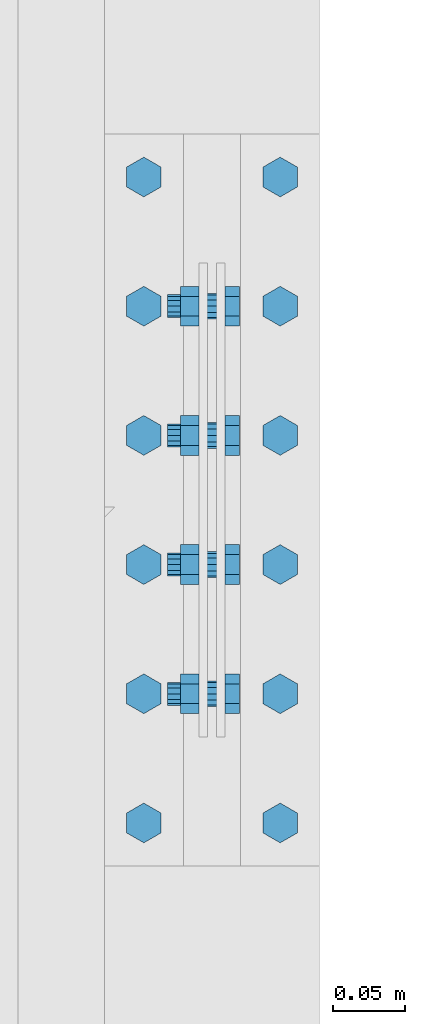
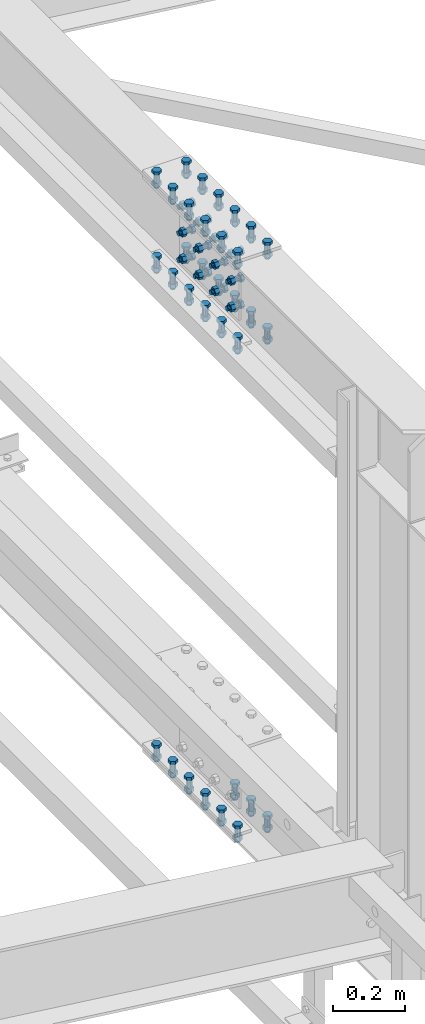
# One storey, part 148 of 3134: 13 mechanical fasteners, 2 elements without a shape of their own.
"""IFC2X3 building model written with IfcOpenShell, lengths in millimetres."""

from ifc_helpers import new_model, si_unit, frame, origin_with_axes, place, context, subcontext, project, spatial, faceted_brep, source, transform, mapped, material, type_object, element, aggregate, save


model = new_model("IFC2X3")

# Units and contexts
model_context = context("Model", 3, precision=1e-05, world=origin_with_axes())
body_context = subcontext(model_context, "Body", "Model", "MODEL_VIEW")
ifc_project = project(units=[si_unit("LENGTHUNIT", "METRE", prefix="MILLI"), si_unit("AREAUNIT", "SQUARE_METRE"), si_unit("VOLUMEUNIT", "CUBIC_METRE"), si_unit("MASSUNIT", "GRAM", prefix="KILO"), si_unit("TIMEUNIT", "SECOND"), si_unit("PLANEANGLEUNIT", "RADIAN"), si_unit("SOLIDANGLEUNIT", "STERADIAN"), si_unit("THERMODYNAMICTEMPERATUREUNIT", "DEGREE_CELSIUS"), si_unit("LUMINOUSINTENSITYUNIT", "LUMEN")], contexts=[model_context])

# Site, building, storey
site_placement = place(None, origin_with_axes())
site = spatial("IfcSite", under=ifc_project, at=site_placement, CompositionType="ELEMENT")
building_placement = place(site_placement, origin_with_axes())
building = spatial("IfcBuilding", under=site, at=building_placement, Name="Undefined", CompositionType="ELEMENT")
storey_placement = place(building_placement, origin_with_axes())
storey = spatial("IfcBuildingStorey", under=building, at=storey_placement, Name="Undefined", CompositionType="ELEMENT", Elevation=0.0)

# Assembly, mechanical fastener
assembly_1_placement = place(storey_placement, origin_with_axes())
assembly_1 = element("IfcElementAssembly", 1, at=assembly_1_placement, inside=storey, Name="300", AssemblyPlace="NOTDEFINED", PredefinedType="RIGID_FRAME")
ifc_material = material(Name="8.8")
mechanical_fastener_type = type_object("IfcMechanicalFastenerType", Name="Bolt assembly")
shared_shape_1 = source(origin_with_axes(), body_context, "Body", "Brep", [
    faceted_brep([(13.856406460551, -19.0499999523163, 0.0), (6.92820323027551, -19.0499999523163, 12.0), (-6.92820323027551, -19.0499999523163, 12.0), (-13.856406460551, -19.0499999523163, 1.69692038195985e-15), (-6.92820323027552, -19.0499999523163, -12.0), (6.9282032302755, -19.0499999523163, -12.0), (6.9282032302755, -9.04999995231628, -12.0), (-6.92820323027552, -9.04999995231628, -12.0), (-13.856406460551, -9.04999995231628, 1.69692038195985e-15), (-6.92820323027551, -9.04999995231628, 12.0), (6.92820323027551, -9.04999995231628, 12.0), (13.856406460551, -9.04999995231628, 0.0), (8.0, -9.04999995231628, 0.0), (6.92820323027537, -9.04999995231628, 4.00000000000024), (3.99999999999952, -9.04999995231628, 6.92820323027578), (-8.29068785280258e-13, -9.04999995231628, 8.0), (-4.00000000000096, -9.04999995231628, 6.92820323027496), (-6.9282032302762, -9.04999995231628, 3.99999999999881), (-8.0, -9.04999995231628, -1.65813757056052e-12), (-6.92820323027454, -9.04999995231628, -4.00000000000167), (-3.99999999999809, -9.04999995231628, -6.92820323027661), (2.47832457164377e-12, -9.04999995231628, -8.0), (4.00000000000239, -9.04999995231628, -6.92820323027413), (6.92820323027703, -9.04999995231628, -3.99999999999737), (6.92820323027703, 30.9500000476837, -3.99999999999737), (4.00000000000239, 30.9500000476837, -6.92820323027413), (2.47832457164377e-12, 30.9500000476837, -8.0), (-3.99999999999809, 30.9500000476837, -6.92820323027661), (-6.92820323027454, 30.9500000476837, -4.00000000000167), (-8.0, 30.9500000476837, -1.65813757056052e-12), (-6.9282032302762, 30.9500000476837, 3.99999999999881), (-4.00000000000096, 30.9500000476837, 6.92820323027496), (-8.29068785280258e-13, 30.9500000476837, 8.0), (3.99999999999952, 30.9500000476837, 6.92820323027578), (6.92820323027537, 30.9500000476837, 4.00000000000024), (8.0, 30.9500000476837, 0.0), (13.856406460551, 9.04999995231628, 0.0), (6.92820323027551, 9.04999995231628, 12.0), (-6.92820323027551, 9.04999995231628, 12.0), (-13.856406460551, 9.04999995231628, 1.69692038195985e-15), (-6.92820323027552, 9.04999995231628, -12.0), (6.9282032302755, 9.04999995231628, -12.0), (6.9282032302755, 22.0499999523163, -12.0), (-6.92820323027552, 22.0499999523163, -12.0), (-13.856406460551, 22.0499999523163, 1.69692038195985e-15), (-6.92820323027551, 22.0499999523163, 12.0), (6.92820323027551, 22.0499999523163, 12.0), (13.856406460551, 22.0499999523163, 0.0)], [[[0, 1, 2, 3, 4, 5]], [[6, 7, 8, 9, 10, 11]], [[0, 11, 10, 1]], [[1, 10, 9, 2]], [[2, 9, 8, 3]], [[3, 8, 7, 4]], [[4, 7, 6, 5]], [[5, 6, 11, 0]], [[12, 13, 14, 15, 16, 17, 18, 19, 20, 21, 22, 23]], [[24, 25, 26, 27, 28, 29, 30, 31, 32, 33, 34, 35]], [[12, 35, 34, 13]], [[13, 34, 33, 14]], [[14, 33, 32, 15]], [[15, 32, 31, 16]], [[16, 31, 30, 17]], [[17, 30, 29, 18]], [[18, 29, 28, 19]], [[19, 28, 27, 20]], [[20, 27, 26, 21]], [[21, 26, 25, 22]], [[22, 25, 24, 23]], [[23, 24, 35, 12]], [[36, 37, 38, 39, 40, 41]], [[42, 43, 44, 45, 46, 47]], [[36, 47, 46, 37]], [[37, 46, 45, 38]], [[38, 45, 44, 39]], [[39, 44, 43, 40]], [[40, 43, 42, 41]], [[41, 42, 47, 36]]]),
    faceted_brep([(9.0, -8.94999995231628, 0.0), (7.79422863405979, -8.94999995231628, 4.50000000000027), (4.49999999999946, -8.94999995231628, 7.79422863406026), (-9.3270238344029e-13, -8.94999995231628, 9.0), (-4.50000000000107, -8.94999995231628, 7.79422863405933), (-7.79422863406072, -8.94999995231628, 4.49999999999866), (-9.0, -8.94999995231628, -1.86540476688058e-12), (-7.79422863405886, -8.94999995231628, -4.50000000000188), (-4.49999999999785, -8.94999995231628, -7.79422863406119), (2.78811514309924e-12, -8.94999995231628, -9.0), (4.50000000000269, -8.94999995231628, -7.7942286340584), (7.79422863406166, -8.94999995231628, -4.49999999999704), (7.79422863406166, -2.94999995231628, -4.49999999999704), (4.50000000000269, -2.94999995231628, -7.7942286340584), (2.78811514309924e-12, -2.94999995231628, -9.0), (-4.49999999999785, -2.94999995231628, -7.79422863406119), (-7.79422863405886, -2.94999995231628, -4.50000000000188), (-9.0, -2.94999995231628, -1.86540476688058e-12), (-7.79422863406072, -2.94999995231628, 4.49999999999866), (-4.50000000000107, -2.94999995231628, 7.79422863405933), (-9.3270238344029e-13, -2.94999995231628, 9.0), (4.49999999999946, -2.94999995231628, 7.79422863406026), (7.79422863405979, -2.94999995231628, 4.50000000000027), (9.0, -2.94999995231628, 0.0), (9.0, -3.04999995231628, 0.0), (7.79422863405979, -3.04999995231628, 4.50000000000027), (4.49999999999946, -3.04999995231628, 7.79422863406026), (-9.3270238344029e-13, -3.04999995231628, 9.0), (-4.50000000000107, -3.04999995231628, 7.79422863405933), (-7.79422863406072, -3.04999995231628, 4.49999999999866), (-9.0, -3.04999995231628, -1.86540476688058e-12), (-7.79422863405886, -3.04999995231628, -4.50000000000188), (-4.49999999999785, -3.04999995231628, -7.79422863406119), (2.78811514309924e-12, -3.04999995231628, -9.0), (4.50000000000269, -3.04999995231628, -7.7942286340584), (7.79422863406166, -3.04999995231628, -4.49999999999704), (7.79422863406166, 3.04999995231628, -4.49999999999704), (4.50000000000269, 3.04999995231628, -7.7942286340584), (2.78811514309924e-12, 3.04999995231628, -9.0), (-4.49999999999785, 3.04999995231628, -7.79422863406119), (-7.79422863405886, 3.04999995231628, -4.50000000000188), (-9.0, 3.04999995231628, -1.86540476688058e-12), (-7.79422863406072, 3.04999995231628, 4.49999999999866), (-4.50000000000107, 3.04999995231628, 7.79422863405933), (-9.3270238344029e-13, 3.04999995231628, 9.0), (4.49999999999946, 3.04999995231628, 7.79422863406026), (7.79422863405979, 3.04999995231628, 4.50000000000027), (9.0, 3.04999995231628, 0.0), (9.0, 2.95000000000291, 0.0), (7.79422863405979, 2.95000000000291, 4.50000000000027), (4.49999999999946, 2.95000000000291, 7.79422863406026), (-9.3270238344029e-13, 2.95000000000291, 9.0), (-4.50000000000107, 2.95000000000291, 7.79422863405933), (-7.79422863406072, 2.95000000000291, 4.49999999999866), (-9.0, 2.95000000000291, -1.86540476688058e-12), (-7.79422863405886, 2.95000000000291, -4.50000000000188), (-4.49999999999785, 2.95000000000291, -7.79422863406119), (2.78811514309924e-12, 2.95000000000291, -9.0), (4.50000000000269, 2.95000000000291, -7.7942286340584), (7.79422863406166, 2.95000000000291, -4.49999999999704), (7.79422863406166, 9.04999995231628, -4.49999999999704), (4.50000000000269, 9.04999995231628, -7.7942286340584), (2.78811514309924e-12, 9.04999995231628, -9.0), (-4.49999999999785, 9.04999995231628, -7.79422863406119), (-7.79422863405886, 9.04999995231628, -4.50000000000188), (-9.0, 9.04999995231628, -1.86540476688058e-12), (-7.79422863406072, 9.04999995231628, 4.49999999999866), (-4.50000000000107, 9.04999995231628, 7.79422863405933), (-9.3270238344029e-13, 9.04999995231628, 9.0), (4.49999999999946, 9.04999995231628, 7.79422863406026), (7.79422863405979, 9.04999995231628, 4.50000000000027), (9.0, 9.04999995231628, 0.0)], [[[0, 1, 2, 3, 4, 5, 6, 7, 8, 9, 10, 11]], [[12, 13, 14, 15, 16, 17, 18, 19, 20, 21, 22, 23]], [[0, 23, 22, 1]], [[1, 22, 21, 2]], [[2, 21, 20, 3]], [[3, 20, 19, 4]], [[4, 19, 18, 5]], [[5, 18, 17, 6]], [[6, 17, 16, 7]], [[7, 16, 15, 8]], [[8, 15, 14, 9]], [[9, 14, 13, 10]], [[10, 13, 12, 11]], [[11, 12, 23, 0]], [[24, 25, 26, 27, 28, 29, 30, 31, 32, 33, 34, 35]], [[36, 37, 38, 39, 40, 41, 42, 43, 44, 45, 46, 47]], [[24, 47, 46, 25]], [[25, 46, 45, 26]], [[26, 45, 44, 27]], [[27, 44, 43, 28]], [[28, 43, 42, 29]], [[29, 42, 41, 30]], [[30, 41, 40, 31]], [[31, 40, 39, 32]], [[32, 39, 38, 33]], [[33, 38, 37, 34]], [[34, 37, 36, 35]], [[35, 36, 47, 24]], [[48, 49, 50, 51, 52, 53, 54, 55, 56, 57, 58, 59]], [[60, 61, 62, 63, 64, 65, 66, 67, 68, 69, 70, 71]], [[48, 71, 70, 49]], [[49, 70, 69, 50]], [[50, 69, 68, 51]], [[51, 68, 67, 52]], [[52, 67, 66, 53]], [[53, 66, 65, 54]], [[54, 65, 64, 55]], [[55, 64, 63, 56]], [[56, 63, 62, 57]], [[57, 62, 61, 58]], [[58, 61, 60, 59]], [[59, 60, 71, 48]]]),
])
mechanical_fastener_1_placement = place(assembly_1_placement, frame((44200.0, 28189.9, 5741.5), z_axis=(0.0, 0.0, 1.0), x_axis=(0.0, 1.0, 0.0)))
mechanical_fastener_1 = element("IfcMechanicalFastener", 2, at=mechanical_fastener_1_placement, type_object=mechanical_fastener_type, material=ifc_material, Name="Bolt assembly", NominalDiameter=16.0, NominalLength=40.0, context=body_context, shape_type="MappedRepresentation", body=[
    mapped(shared_shape_1, transform((0.0, 0.0, -90.0))),
    mapped(shared_shape_1, transform((90.0, 0.0, -90.0))),
    mapped(shared_shape_1, transform((0.0, 0.0, 0.0))),
    mapped(shared_shape_1, transform((90.0, 0.0, 0.0))),
    mapped(shared_shape_1, transform((0.0, 0.0, 90.0))),
    mapped(shared_shape_1, transform((90.0, 0.0, 90.0))),
])

# Assembly, mechanical fasteners
assembly_2_placement = place(storey_placement, origin_with_axes())
assembly_2 = element("IfcElementAssembly", 3, at=assembly_2_placement, inside=storey, Name="300", AssemblyPlace="NOTDEFINED", PredefinedType="RIGID_FRAME")
mechanical_fastener_2_placement = place(assembly_2_placement, frame((44200.0, 28369.9, 5741.5), z_axis=(0.0, 0.0, 1.0), x_axis=(0.0, 1.0, 0.0)))
mechanical_fastener_2 = element("IfcMechanicalFastener", 4, at=mechanical_fastener_2_placement, type_object=mechanical_fastener_type, material=ifc_material, Name="Bolt assembly", NominalDiameter=16.0, NominalLength=40.0, context=body_context, shape_type="MappedRepresentation", body=[
    mapped(shared_shape_1, transform((0.0, 0.0, -90.0))),
    mapped(shared_shape_1, transform((90.0, 0.0, -90.0))),
    mapped(shared_shape_1, transform((0.0, 0.0, 0.0))),
    mapped(shared_shape_1, transform((90.0, 0.0, 0.0))),
    mapped(shared_shape_1, transform((0.0, 0.0, 90.0))),
    mapped(shared_shape_1, transform((90.0, 0.0, 90.0))),
])
shared_shape_2 = source(origin_with_axes(), body_context, "Body", "Brep", [
    faceted_brep([(13.856406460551, -29.1999998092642, 0.0), (6.92820323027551, -29.1999998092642, 12.0), (-6.92820323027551, -29.1999998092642, 12.0), (-13.856406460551, -29.1999998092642, 1.69692038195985e-15), (-6.92820323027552, -29.1999998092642, -12.0), (6.9282032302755, -29.1999998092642, -12.0), (6.9282032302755, -19.199990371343, -12.0), (-6.92820323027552, -19.199990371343, -12.0), (-13.856406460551, -19.199990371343, 1.69692038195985e-15), (-6.92820323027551, -19.199990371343, 12.0), (6.92820323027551, -19.199990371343, 12.0), (13.856406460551, -19.199990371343, 0.0), (8.0, -19.1999998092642, 0.0), (6.92820323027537, -19.1999998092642, 4.00000000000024), (3.99999999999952, -19.1999998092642, 6.92820323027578), (-8.29068785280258e-13, -19.1999998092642, 8.0), (-4.00000000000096, -19.1999998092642, 6.92820323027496), (-6.9282032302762, -19.1999998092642, 3.99999999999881), (-8.0, -19.1999998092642, -1.65813757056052e-12), (-6.92820323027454, -19.1999998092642, -4.00000000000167), (-3.99999999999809, -19.1999998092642, -6.92820323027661), (2.47832457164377e-12, -19.1999998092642, -8.0), (4.00000000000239, -19.1999998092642, -6.92820323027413), (6.92820323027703, -19.1999998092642, -3.99999999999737), (6.92820323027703, 30.8000001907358, -3.99999999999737), (4.00000000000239, 30.8000001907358, -6.92820323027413), (2.47832457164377e-12, 30.8000001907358, -8.0), (-3.99999999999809, 30.8000001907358, -6.92820323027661), (-6.92820323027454, 30.8000001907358, -4.00000000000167), (-8.0, 30.8000001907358, -1.65813757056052e-12), (-6.9282032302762, 30.8000001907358, 3.99999999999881), (-4.00000000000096, 30.8000001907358, 6.92820323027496), (-8.29068785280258e-13, 30.8000001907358, 8.0), (3.99999999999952, 30.8000001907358, 6.92820323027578), (6.92820323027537, 30.8000001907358, 4.00000000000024), (8.0, 30.8000001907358, 0.0), (13.856406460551, 9.99999995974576, 0.0), (6.92820323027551, 9.99999995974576, 12.0), (-6.92820323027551, 9.99999995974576, 12.0), (-13.856406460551, 9.99999995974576, 1.69692038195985e-15), (-6.92820323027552, 9.99999995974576, -12.0), (6.9282032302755, 9.99999995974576, -12.0), (6.9282032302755, 22.9999913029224, -12.0), (-6.92820323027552, 22.9999913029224, -12.0), (-13.856406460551, 22.9999913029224, 1.69692038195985e-15), (-6.92820323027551, 22.9999913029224, 12.0), (6.92820323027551, 22.9999913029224, 12.0), (13.856406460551, 22.9999913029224, 0.0)], [[[0, 1, 2, 3, 4, 5]], [[6, 7, 8, 9, 10, 11]], [[0, 11, 10, 1]], [[1, 10, 9, 2]], [[2, 9, 8, 3]], [[3, 8, 7, 4]], [[4, 7, 6, 5]], [[5, 6, 11, 0]], [[12, 13, 14, 15, 16, 17, 18, 19, 20, 21, 22, 23]], [[24, 25, 26, 27, 28, 29, 30, 31, 32, 33, 34, 35]], [[12, 35, 34, 13]], [[13, 34, 33, 14]], [[14, 33, 32, 15]], [[15, 32, 31, 16]], [[16, 31, 30, 17]], [[17, 30, 29, 18]], [[18, 29, 28, 19]], [[19, 28, 27, 20]], [[20, 27, 26, 21]], [[21, 26, 25, 22]], [[22, 25, 24, 23]], [[23, 24, 35, 12]], [[36, 37, 38, 39, 40, 41]], [[42, 43, 44, 45, 46, 47]], [[36, 47, 46, 37]], [[37, 46, 45, 38]], [[38, 45, 44, 39]], [[39, 44, 43, 40]], [[40, 43, 42, 41]], [[41, 42, 47, 36]]]),
    faceted_brep([(9.0, -19.0999998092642, 0.0), (7.79422863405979, -19.0999998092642, 4.50000000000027), (4.49999999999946, -19.0999998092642, 7.79422863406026), (-9.3270238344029e-13, -19.0999998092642, 9.0), (-4.50000000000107, -19.0999998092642, 7.79422863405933), (-7.79422863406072, -19.0999998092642, 4.49999999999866), (-9.0, -19.0999998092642, -1.86540476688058e-12), (-7.79422863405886, -19.0999998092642, -4.50000000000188), (-4.49999999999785, -19.0999998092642, -7.79422863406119), (2.78811514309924e-12, -19.0999998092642, -9.0), (4.50000000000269, -19.0999998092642, -7.7942286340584), (7.79422863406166, -19.0999998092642, -4.49999999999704), (7.79422863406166, -9.09999037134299, -4.49999999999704), (4.50000000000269, -9.09999037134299, -7.7942286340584), (2.78811514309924e-12, -9.09999037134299, -9.0), (-4.49999999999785, -9.09999037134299, -7.79422863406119), (-7.79422863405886, -9.09999037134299, -4.50000000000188), (-9.0, -9.09999037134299, -1.86540476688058e-12), (-7.79422863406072, -9.09999037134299, 4.49999999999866), (-4.50000000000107, -9.09999037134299, 7.79422863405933), (-9.3270238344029e-13, -9.09999037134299, 9.0), (4.49999999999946, -9.09999037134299, 7.79422863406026), (7.79422863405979, -9.09999037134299, 4.50000000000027), (9.0, -9.09999037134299, 0.0), (9.0, -9.20000008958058, 0.0), (7.79422863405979, -9.20000008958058, 4.50000000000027), (4.49999999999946, -9.20000008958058, 7.79422863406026), (-9.3270238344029e-13, -9.20000008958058, 9.0), (-4.50000000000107, -9.20000008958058, 7.79422863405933), (-7.79422863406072, -9.20000008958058, 4.49999999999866), (-9.0, -9.20000008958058, -1.86540476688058e-12), (-7.79422863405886, -9.20000008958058, -4.50000000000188), (-4.49999999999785, -9.20000008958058, -7.79422863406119), (2.78811514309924e-12, -9.20000008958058, -9.0), (4.50000000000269, -9.20000008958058, -7.7942286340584), (7.79422863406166, -9.20000008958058, -4.49999999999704), (7.79422863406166, -3.46568413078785e-07, -4.49999999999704), (4.50000000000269, -3.46568413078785e-07, -7.7942286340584), (2.78811514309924e-12, -3.46568413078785e-07, -9.0), (-4.49999999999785, -3.46568413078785e-07, -7.79422863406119), (-7.79422863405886, -3.46568413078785e-07, -4.50000000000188), (-9.0, -3.46568413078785e-07, -1.86540476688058e-12), (-7.79422863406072, -3.46568413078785e-07, 4.49999999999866), (-4.50000000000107, -3.46568413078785e-07, 7.79422863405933), (-9.3270238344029e-13, -3.46568413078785e-07, 9.0), (4.49999999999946, -3.46568413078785e-07, 7.79422863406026), (7.79422863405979, -3.46568413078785e-07, 4.50000000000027), (9.0, -3.46568413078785e-07, 0.0), (9.0, -0.1, 0.0), (7.79422863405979, -0.1, 4.50000000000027), (4.49999999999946, -0.1, 7.79422863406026), (-9.3270238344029e-13, -0.1, 9.0), (-4.50000000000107, -0.1, 7.79422863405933), (-7.79422863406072, -0.1, 4.49999999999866), (-9.0, -0.1, -1.86540476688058e-12), (-7.79422863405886, -0.1, -4.50000000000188), (-4.49999999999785, -0.1, -7.79422863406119), (2.78811514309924e-12, -0.1, -9.0), (4.50000000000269, -0.1, -7.7942286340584), (7.79422863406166, -0.1, -4.49999999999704), (7.79422863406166, 9.99999995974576, -4.49999999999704), (4.50000000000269, 9.99999995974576, -7.7942286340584), (2.78811514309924e-12, 9.99999995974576, -9.0), (-4.49999999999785, 9.99999995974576, -7.79422863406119), (-7.79422863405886, 9.99999995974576, -4.50000000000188), (-9.0, 9.99999995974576, -1.86540476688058e-12), (-7.79422863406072, 9.99999995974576, 4.49999999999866), (-4.50000000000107, 9.99999995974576, 7.79422863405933), (-9.3270238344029e-13, 9.99999995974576, 9.0), (4.49999999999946, 9.99999995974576, 7.79422863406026), (7.79422863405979, 9.99999995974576, 4.50000000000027), (9.0, 9.99999995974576, 0.0)], [[[0, 1, 2, 3, 4, 5, 6, 7, 8, 9, 10, 11]], [[12, 13, 14, 15, 16, 17, 18, 19, 20, 21, 22, 23]], [[0, 23, 22, 1]], [[1, 22, 21, 2]], [[2, 21, 20, 3]], [[3, 20, 19, 4]], [[4, 19, 18, 5]], [[5, 18, 17, 6]], [[6, 17, 16, 7]], [[7, 16, 15, 8]], [[8, 15, 14, 9]], [[9, 14, 13, 10]], [[10, 13, 12, 11]], [[11, 12, 23, 0]], [[24, 25, 26, 27, 28, 29, 30, 31, 32, 33, 34, 35]], [[36, 37, 38, 39, 40, 41, 42, 43, 44, 45, 46, 47]], [[24, 47, 46, 25]], [[25, 46, 45, 26]], [[26, 45, 44, 27]], [[27, 44, 43, 28]], [[28, 43, 42, 29]], [[29, 42, 41, 30]], [[30, 41, 40, 31]], [[31, 40, 39, 32]], [[32, 39, 38, 33]], [[33, 38, 37, 34]], [[34, 37, 36, 35]], [[35, 36, 47, 24]], [[48, 49, 50, 51, 52, 53, 54, 55, 56, 57, 58, 59]], [[60, 61, 62, 63, 64, 65, 66, 67, 68, 69, 70, 71]], [[48, 71, 70, 49]], [[49, 70, 69, 50]], [[50, 69, 68, 51]], [[51, 68, 67, 52]], [[52, 67, 66, 53]], [[53, 66, 65, 54]], [[54, 65, 64, 55]], [[55, 64, 63, 56]], [[56, 63, 62, 57]], [[57, 62, 61, 58]], [[58, 61, 60, 59]], [[59, 60, 71, 48]]]),
])
mechanical_fastener_3_placement = place(assembly_2_placement, frame((44247.5, 28369.9, 5880.80000019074), z_axis=(-1.0, 0.0, 0.0), x_axis=(0.0, 1.0, 0.0)))
mechanical_fastener_3 = element("IfcMechanicalFastener", 5, at=mechanical_fastener_3_placement, type_object=mechanical_fastener_type, material=ifc_material, Name="Bolt assembly", NominalDiameter=16.0, NominalLength=50.0, context=body_context, shape_type="MappedRepresentation", body=[
    mapped(shared_shape_2, transform((0.0, 0.0, 0.0))),
    mapped(shared_shape_2, transform((90.0, 0.0, 0.0))),
    mapped(shared_shape_2, transform((180.0, 0.0, 0.0))),
])

# Mechanical fastener
mechanical_fastener_4_placement = place(assembly_1_placement, frame((44247.5, 28099.9, 5880.80000019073), z_axis=(-1.0, 0.0, 0.0), x_axis=(0.0, 1.0, 0.0)))
mechanical_fastener_4 = element("IfcMechanicalFastener", 6, at=mechanical_fastener_4_placement, type_object=mechanical_fastener_type, material=ifc_material, Name="Bolt assembly", NominalDiameter=16.0, NominalLength=50.0, context=body_context, shape_type="MappedRepresentation", body=[
    mapped(shared_shape_2, transform((0.0, 0.0, 0.0))),
    mapped(shared_shape_2, transform((90.0, 0.0, 0.0))),
    mapped(shared_shape_2, transform((180.0, 0.0, 0.0))),
])

mechanical_fastener_5_placement = place(assembly_2_placement, frame((44152.5, 28369.9, 5880.80000019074), z_axis=(-1.0, 0.0, 0.0), x_axis=(0.0, 1.0, 0.0)))
mechanical_fastener_5 = element("IfcMechanicalFastener", 7, at=mechanical_fastener_5_placement, type_object=mechanical_fastener_type, material=ifc_material, Name="Bolt assembly", NominalDiameter=16.0, NominalLength=50.0, context=body_context, shape_type="MappedRepresentation", body=[
    mapped(shared_shape_2, transform((0.0, 0.0, 0.0))),
    mapped(shared_shape_2, transform((90.0, 0.0, 0.0))),
    mapped(shared_shape_2, transform((180.0, 0.0, 0.0))),
])

mechanical_fastener_6_placement = place(assembly_1_placement, frame((44152.5, 28099.9, 5880.80000019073), z_axis=(-1.0, 0.0, 0.0), x_axis=(0.0, 1.0, 0.0)))
mechanical_fastener_6 = element("IfcMechanicalFastener", 8, at=mechanical_fastener_6_placement, type_object=mechanical_fastener_type, material=ifc_material, Name="Bolt assembly", NominalDiameter=16.0, NominalLength=50.0, context=body_context, shape_type="MappedRepresentation", body=[
    mapped(shared_shape_2, transform((0.0, 0.0, 0.0))),
    mapped(shared_shape_2, transform((90.0, 0.0, 0.0))),
    mapped(shared_shape_2, transform((180.0, 0.0, 0.0))),
])

shared_shape_3 = source(origin_with_axes(), body_context, "Body", "Brep", [
    faceted_brep([(13.856406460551, -20.0, 0.0), (6.92820323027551, -20.0, 12.0), (-6.92820323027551, -20.0, 12.0), (-13.856406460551, -20.0, 1.69692038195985e-15), (-6.92820323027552, -20.0, -12.0), (6.9282032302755, -20.0, -12.0), (6.9282032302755, -10.0, -12.0), (-6.92820323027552, -10.0, -12.0), (-13.856406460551, -10.0, 1.69692038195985e-15), (-6.92820323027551, -10.0, 12.0), (6.92820323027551, -10.0, 12.0), (13.856406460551, -10.0, 0.0), (8.0, -10.0, 0.0), (6.92820323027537, -10.0, 4.00000000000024), (3.99999999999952, -10.0, 6.92820323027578), (-8.29068785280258e-13, -10.0, 8.0), (-4.00000000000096, -10.0, 6.92820323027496), (-6.9282032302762, -10.0, 3.99999999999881), (-8.0, -10.0, -1.65813757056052e-12), (-6.92820323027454, -10.0, -4.00000000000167), (-3.99999999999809, -10.0, -6.92820323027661), (2.47832457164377e-12, -10.0, -8.0), (4.00000000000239, -10.0, -6.92820323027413), (6.92820323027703, -10.0, -3.99999999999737), (6.92820323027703, 40.0, -3.99999999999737), (4.00000000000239, 40.0, -6.92820323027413), (2.47832457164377e-12, 40.0, -8.0), (-3.99999999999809, 40.0, -6.92820323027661), (-6.92820323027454, 40.0, -4.00000000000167), (-8.0, 40.0, -1.65813757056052e-12), (-6.9282032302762, 40.0, 3.99999999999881), (-4.00000000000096, 40.0, 6.92820323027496), (-8.29068785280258e-13, 40.0, 8.0), (3.99999999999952, 40.0, 6.92820323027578), (6.92820323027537, 40.0, 4.00000000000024), (8.0, 40.0, 0.0), (13.856406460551, 19.1999998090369, 0.0), (6.92820323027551, 19.1999998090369, 12.0), (-6.92820323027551, 19.1999998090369, 12.0), (-13.856406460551, 19.1999998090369, 1.69692038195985e-15), (-6.92820323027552, 19.1999998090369, -12.0), (6.9282032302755, 19.1999998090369, -12.0), (6.9282032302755, 32.1999998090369, -12.0), (-6.92820323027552, 32.1999998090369, -12.0), (-13.856406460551, 32.1999998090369, 1.69692038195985e-15), (-6.92820323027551, 32.1999998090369, 12.0), (6.92820323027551, 32.1999998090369, 12.0), (13.856406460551, 32.1999998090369, 0.0)], [[[0, 1, 2, 3, 4, 5]], [[6, 7, 8, 9, 10, 11]], [[0, 11, 10, 1]], [[1, 10, 9, 2]], [[2, 9, 8, 3]], [[3, 8, 7, 4]], [[4, 7, 6, 5]], [[5, 6, 11, 0]], [[12, 13, 14, 15, 16, 17, 18, 19, 20, 21, 22, 23]], [[24, 25, 26, 27, 28, 29, 30, 31, 32, 33, 34, 35]], [[12, 35, 34, 13]], [[13, 34, 33, 14]], [[14, 33, 32, 15]], [[15, 32, 31, 16]], [[16, 31, 30, 17]], [[17, 30, 29, 18]], [[18, 29, 28, 19]], [[19, 28, 27, 20]], [[20, 27, 26, 21]], [[21, 26, 25, 22]], [[22, 25, 24, 23]], [[23, 24, 35, 12]], [[36, 37, 38, 39, 40, 41]], [[42, 43, 44, 45, 46, 47]], [[36, 47, 46, 37]], [[37, 46, 45, 38]], [[38, 45, 44, 39]], [[39, 44, 43, 40]], [[40, 43, 42, 41]], [[41, 42, 47, 36]]]),
    faceted_brep([(9.0, 9.09999980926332, 0.0), (7.79422863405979, 9.09999980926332, 4.50000000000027), (4.49999999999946, 9.09999980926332, 7.79422863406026), (-9.3270238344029e-13, 9.09999980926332, 9.0), (-4.50000000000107, 9.09999980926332, 7.79422863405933), (-7.79422863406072, 9.09999980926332, 4.49999999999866), (-9.0, 9.09999980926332, -1.86540476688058e-12), (-7.79422863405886, 9.09999980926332, -4.50000000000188), (-4.49999999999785, 9.09999980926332, -7.79422863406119), (2.78811514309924e-12, 9.09999980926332, -9.0), (4.50000000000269, 9.09999980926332, -7.7942286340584), (7.79422863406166, 9.09999980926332, -4.49999999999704), (7.79422863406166, 19.1999998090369, -4.49999999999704), (4.50000000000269, 19.1999998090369, -7.7942286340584), (2.78811514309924e-12, 19.1999998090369, -9.0), (-4.49999999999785, 19.1999998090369, -7.79422863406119), (-7.79422863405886, 19.1999998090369, -4.50000000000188), (-9.0, 19.1999998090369, -1.86540476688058e-12), (-7.79422863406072, 19.1999998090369, 4.49999999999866), (-4.50000000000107, 19.1999998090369, 7.79422863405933), (-9.3270238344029e-13, 19.1999998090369, 9.0), (4.49999999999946, 19.1999998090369, 7.79422863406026), (7.79422863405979, 19.1999998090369, 4.50000000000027), (9.0, 19.1999998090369, 0.0), (9.0, -3.46568413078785e-07, 0.0), (7.79422863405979, -3.46568413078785e-07, 4.50000000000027), (4.49999999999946, -3.46568413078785e-07, 7.79422863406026), (-9.3270238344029e-13, -3.46568413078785e-07, 9.0), (-4.50000000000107, -3.46568413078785e-07, 7.79422863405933), (-7.79422863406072, -3.46568413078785e-07, 4.49999999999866), (-9.0, -3.46568413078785e-07, -1.86540476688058e-12), (-7.79422863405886, -3.46568413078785e-07, -4.50000000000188), (-4.49999999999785, -3.46568413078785e-07, -7.79422863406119), (2.78811514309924e-12, -3.46568413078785e-07, -9.0), (4.50000000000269, -3.46568413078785e-07, -7.7942286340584), (7.79422863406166, -3.46568413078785e-07, -4.49999999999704), (7.79422863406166, 9.19999980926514, -4.49999999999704), (4.50000000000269, 9.19999980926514, -7.7942286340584), (2.78811514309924e-12, 9.19999980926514, -9.0), (-4.49999999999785, 9.19999980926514, -7.79422863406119), (-7.79422863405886, 9.19999980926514, -4.50000000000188), (-9.0, 9.19999980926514, -1.86540476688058e-12), (-7.79422863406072, 9.19999980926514, 4.49999999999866), (-4.50000000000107, 9.19999980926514, 7.79422863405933), (-9.3270238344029e-13, 9.19999980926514, 9.0), (4.49999999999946, 9.19999980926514, 7.79422863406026), (7.79422863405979, 9.19999980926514, 4.50000000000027), (9.0, 9.19999980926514, 0.0), (9.0, -9.89999997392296, 0.0), (7.79422863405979, -9.89999997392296, 4.50000000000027), (4.49999999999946, -9.89999997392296, 7.79422863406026), (-9.3270238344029e-13, -9.89999997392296, 9.0), (-4.50000000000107, -9.89999997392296, 7.79422863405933), (-7.79422863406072, -9.89999997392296, 4.49999999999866), (-9.0, -9.89999997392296, -1.86540476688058e-12), (-7.79422863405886, -9.89999997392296, -4.50000000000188), (-4.49999999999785, -9.89999997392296, -7.79422863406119), (2.78811514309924e-12, -9.89999997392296, -9.0), (4.50000000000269, -9.89999997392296, -7.7942286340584), (7.79422863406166, -9.89999997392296, -4.49999999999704), (7.79422863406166, 0.100000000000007, -4.49999999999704), (4.50000000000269, 0.100000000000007, -7.7942286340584), (2.78811514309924e-12, 0.100000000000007, -9.0), (-4.49999999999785, 0.100000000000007, -7.79422863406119), (-7.79422863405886, 0.100000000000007, -4.50000000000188), (-9.0, 0.100000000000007, -1.86540476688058e-12), (-7.79422863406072, 0.100000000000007, 4.49999999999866), (-4.50000000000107, 0.100000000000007, 7.79422863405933), (-9.3270238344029e-13, 0.100000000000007, 9.0), (4.49999999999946, 0.100000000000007, 7.79422863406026), (7.79422863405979, 0.100000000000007, 4.50000000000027), (9.0, 0.100000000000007, 0.0)], [[[0, 1, 2, 3, 4, 5, 6, 7, 8, 9, 10, 11]], [[12, 13, 14, 15, 16, 17, 18, 19, 20, 21, 22, 23]], [[0, 23, 22, 1]], [[1, 22, 21, 2]], [[2, 21, 20, 3]], [[3, 20, 19, 4]], [[4, 19, 18, 5]], [[5, 18, 17, 6]], [[6, 17, 16, 7]], [[7, 16, 15, 8]], [[8, 15, 14, 9]], [[9, 14, 13, 10]], [[10, 13, 12, 11]], [[11, 12, 23, 0]], [[24, 25, 26, 27, 28, 29, 30, 31, 32, 33, 34, 35]], [[36, 37, 38, 39, 40, 41, 42, 43, 44, 45, 46, 47]], [[24, 47, 46, 25]], [[25, 46, 45, 26]], [[26, 45, 44, 27]], [[27, 44, 43, 28]], [[28, 43, 42, 29]], [[29, 42, 41, 30]], [[30, 41, 40, 31]], [[31, 40, 39, 32]], [[32, 39, 38, 33]], [[33, 38, 37, 34]], [[34, 37, 36, 35]], [[35, 36, 47, 24]], [[48, 49, 50, 51, 52, 53, 54, 55, 56, 57, 58, 59]], [[60, 61, 62, 63, 64, 65, 66, 67, 68, 69, 70, 71]], [[48, 71, 70, 49]], [[49, 70, 69, 50]], [[50, 69, 68, 51]], [[51, 68, 67, 52]], [[52, 67, 66, 53]], [[53, 66, 65, 54]], [[54, 65, 64, 55]], [[55, 64, 63, 56]], [[56, 63, 62, 57]], [[57, 62, 61, 58]], [[58, 61, 60, 59]], [[59, 60, 71, 48]]]),
])
mechanical_fastener_7_placement = place(assembly_2_placement, frame((44152.4999999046, 28369.9, 5602.19999980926), z_axis=(-1.0, 0.0, 0.0), x_axis=(0.0, 1.0, 0.0)))
mechanical_fastener_7 = element("IfcMechanicalFastener", 9, at=mechanical_fastener_7_placement, type_object=mechanical_fastener_type, material=ifc_material, Name="Bolt assembly", NominalDiameter=16.0, NominalLength=50.0, context=body_context, shape_type="MappedRepresentation", body=[
    mapped(shared_shape_3, transform((0.0, 0.0, 0.0))),
    mapped(shared_shape_3, transform((90.0, 0.0, 0.0))),
    mapped(shared_shape_3, transform((180.0, 0.0, 0.0))),
])

mechanical_fastener_8_placement = place(assembly_1_placement, frame((44152.4999999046, 28099.9, 5602.19999980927), z_axis=(-1.0, 0.0, 0.0), x_axis=(0.0, 1.0, 0.0)))
mechanical_fastener_8 = element("IfcMechanicalFastener", 10, at=mechanical_fastener_8_placement, type_object=mechanical_fastener_type, material=ifc_material, Name="Bolt assembly", NominalDiameter=16.0, NominalLength=50.0, context=body_context, shape_type="MappedRepresentation", body=[
    mapped(shared_shape_3, transform((0.0, 0.0, 0.0))),
    mapped(shared_shape_3, transform((90.0, 0.0, 0.0))),
    mapped(shared_shape_3, transform((180.0, 0.0, 0.0))),
])

mechanical_fastener_9_placement = place(assembly_2_placement, frame((44247.4999999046, 28369.9, 5602.19999980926), z_axis=(-1.0, 0.0, 0.0), x_axis=(0.0, 1.0, 0.0)))
mechanical_fastener_9 = element("IfcMechanicalFastener", 11, at=mechanical_fastener_9_placement, type_object=mechanical_fastener_type, material=ifc_material, Name="Bolt assembly", NominalDiameter=16.0, NominalLength=50.0, context=body_context, shape_type="MappedRepresentation", body=[
    mapped(shared_shape_3, transform((0.0, 0.0, 0.0))),
    mapped(shared_shape_3, transform((90.0, 0.0, 0.0))),
    mapped(shared_shape_3, transform((180.0, 0.0, 0.0))),
])

mechanical_fastener_10_placement = place(assembly_1_placement, frame((44247.4999999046, 28099.9, 5602.19999980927), z_axis=(-1.0, 0.0, 0.0), x_axis=(0.0, 1.0, 0.0)))
mechanical_fastener_10 = element("IfcMechanicalFastener", 12, at=mechanical_fastener_10_placement, type_object=mechanical_fastener_type, material=ifc_material, Name="Bolt assembly", NominalDiameter=16.0, NominalLength=50.0, context=body_context, shape_type="MappedRepresentation", body=[
    mapped(shared_shape_3, transform((0.0, 0.0, 0.0))),
    mapped(shared_shape_3, transform((90.0, 0.0, 0.0))),
    mapped(shared_shape_3, transform((180.0, 0.0, 0.0))),
])

mechanical_fastener_11_placement = place(assembly_1_placement, frame((44152.4999999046, 28099.9, 3949.19999980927), z_axis=(-1.0, 0.0, 0.0), x_axis=(0.0, 1.0, 0.0)))
mechanical_fastener_11 = element("IfcMechanicalFastener", 13, at=mechanical_fastener_11_placement, type_object=mechanical_fastener_type, material=ifc_material, Name="Bolt assembly", NominalDiameter=16.0, NominalLength=50.0, context=body_context, shape_type="MappedRepresentation", body=[
    mapped(shared_shape_3, transform((0.0, 0.0, 0.0))),
    mapped(shared_shape_3, transform((90.0, 0.0, 0.0))),
    mapped(shared_shape_3, transform((180.0, 0.0, 0.0))),
])

mechanical_fastener_12_placement = place(assembly_1_placement, frame((44247.4999999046, 28099.9, 3949.19999980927), z_axis=(-1.0, 0.0, 0.0), x_axis=(0.0, 1.0, 0.0)))
mechanical_fastener_12 = element("IfcMechanicalFastener", 14, at=mechanical_fastener_12_placement, type_object=mechanical_fastener_type, material=ifc_material, Name="Bolt assembly", NominalDiameter=16.0, NominalLength=50.0, context=body_context, shape_type="MappedRepresentation", body=[
    mapped(shared_shape_3, transform((0.0, 0.0, 0.0))),
    mapped(shared_shape_3, transform((90.0, 0.0, 0.0))),
    mapped(shared_shape_3, transform((180.0, 0.0, 0.0))),
])

aggregate(assembly_1, [mechanical_fastener_1, mechanical_fastener_4, mechanical_fastener_6, mechanical_fastener_8, mechanical_fastener_10, mechanical_fastener_11, mechanical_fastener_12])

mechanical_fastener_13_placement = place(assembly_2_placement, frame((44152.4999999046, 28369.9, 3949.19999980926), z_axis=(-1.0, 0.0, 0.0), x_axis=(0.0, 1.0, 0.0)))
mechanical_fastener_13 = element("IfcMechanicalFastener", 15, at=mechanical_fastener_13_placement, type_object=mechanical_fastener_type, material=ifc_material, Name="Bolt assembly", NominalDiameter=16.0, NominalLength=50.0, context=body_context, shape_type="MappedRepresentation", body=[
    mapped(shared_shape_3, transform((0.0, 0.0, 0.0))),
    mapped(shared_shape_3, transform((90.0, 0.0, 0.0))),
    mapped(shared_shape_3, transform((180.0, 0.0, 0.0))),
])

aggregate(assembly_2, [mechanical_fastener_2, mechanical_fastener_3, mechanical_fastener_5, mechanical_fastener_7, mechanical_fastener_9, mechanical_fastener_13])

save(model, "model.ifc")
